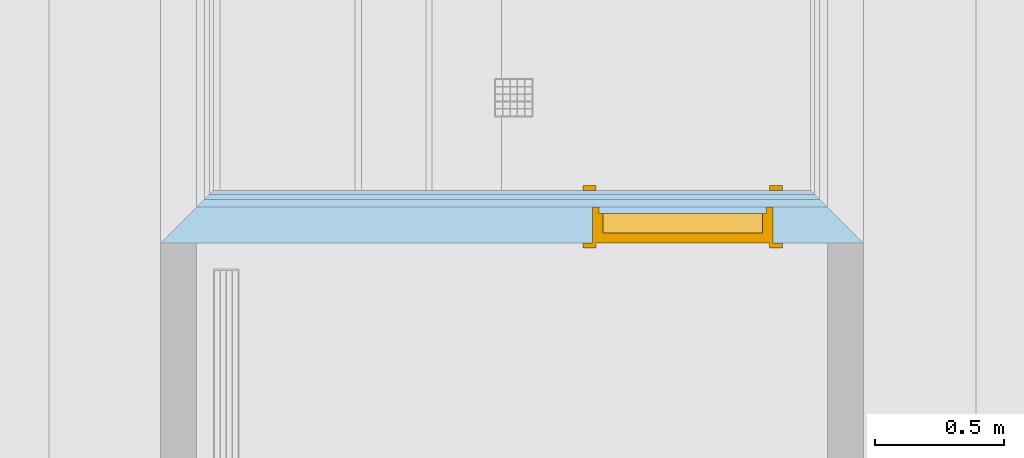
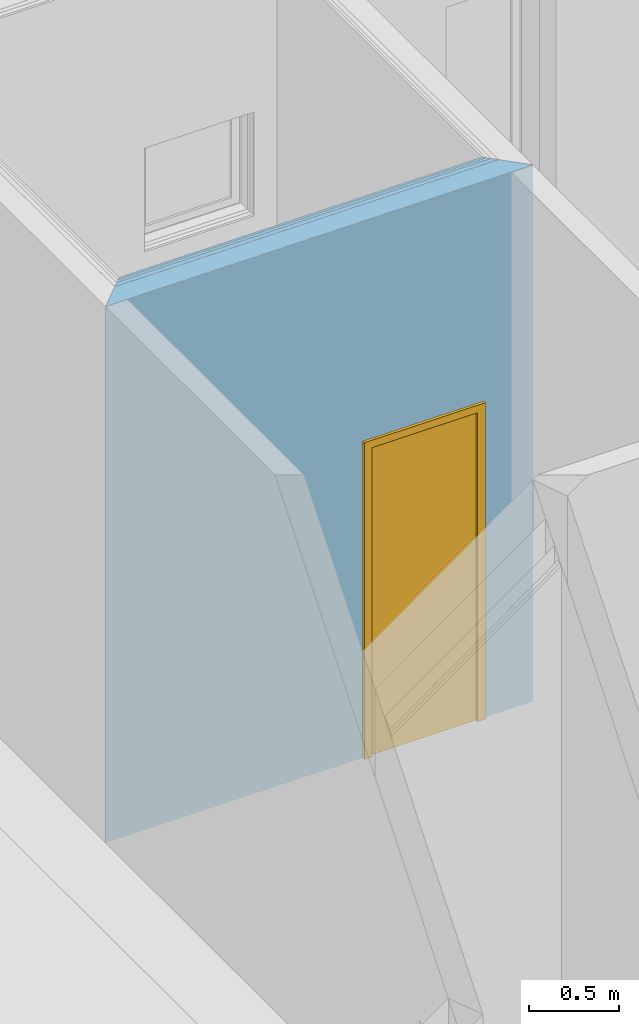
# One storey, part 65 of 100: 1 door, 1 opening, 1 element without a shape of its own, plus 4 elements that do not belong to this part.
"""IFC2X3 building model written with IfcOpenShell, lengths in millimetres."""

import ifcopenshell
import ifcopenshell.guid

model = None  # the IFC model being written
_history = None  # IfcOwnerHistory: only IFC2X3 demands one
_inside = {}  # id of a spatial element -> (the spatial element, [elements in it])
_under = {}  # id of a project, library or spatial element -> (it, [spatial elements below it])
_declared = {}  # id of a project -> (the project, [libraries it declares])
_typed = {}  # id of a type object -> (the type object, [elements of that type])
_made_of = {}  # id of a material, layer set ... -> (it, [elements and type objects made of it])


def new_model(schema):
    """Start an empty IFC model of exactly this schema.

    Asked for "IFC4X3", IfcOpenShell would pick the latest addendum, in which some entities
    have other attributes; the version numbers below select the first issue.
    IFC2X3 requires an IfcOwnerHistory on every rooted entity: one is made here for all.
    """
    global model, _history
    if schema == "IFC4X3":
        model = ifcopenshell.file(schema_version=(4, 3, 0, 0))
    else:
        model = ifcopenshell.file(schema=schema)
    _inside.clear()
    _under.clear()
    _declared.clear()
    _typed.clear()
    _made_of.clear()
    _history = None
    if model.schema == "IFC2X3":
        org = make("IfcOrganization", Name="unknown")
        user = make(
            "IfcPersonAndOrganization",
            ThePerson=make("IfcPerson", FamilyName="unknown"),
            TheOrganization=org,
        )
        app = make(
            "IfcApplication",
            ApplicationDeveloper=org,
            Version="unknown",
            ApplicationFullName="unknown",
            ApplicationIdentifier="unknown",
        )
        _history = make(
            "IfcOwnerHistory",
            OwningUser=user,
            OwningApplication=app,
            ChangeAction="ADDED",
            CreationDate=0,
        )
    return model


def make(cls, **values):
    """One entity of the class cls with the attributes given. An attribute that is None is left unset."""
    return model.create_entity(
        cls, **{name: value for name, value in values.items() if value is not None}
    )


def entity(cls, *values):
    """Any entity or typed value of the class cls, its attributes in the order of the schema. None: left unset."""
    e = model.create_entity(cls)
    for i, value in enumerate(values):
        if value is not None:
            e[i] = value
    return e


def rooted(cls, **values):
    """An entity with a GlobalId (a new one), such as an element, a storey or a relation."""
    return make(cls, GlobalId=ifcopenshell.guid.new(), OwnerHistory=_history, **values)


def si_unit(unit_type, name, prefix=None):
    """IfcSIUnit, for example si_unit("LENGTHUNIT", "METRE", prefix="MILLI")."""
    return make("IfcSIUnit", UnitType=unit_type, Prefix=prefix, Name=name)


def converted_unit(unit_type, name, factor, base, dimensions=None, offset=None):
    """IfcConversionBasedUnit, such as the inch: factor (a typed value) times the base unit."""
    return make(
        "IfcConversionBasedUnit"
        if offset is None
        else "IfcConversionBasedUnitWithOffset",
        ConversionOffset=offset,
        Dimensions=None
        if dimensions is None
        else entity("IfcDimensionalExponents", *dimensions),
        UnitType=unit_type,
        Name=name,
        ConversionFactor=make(
            "IfcMeasureWithUnit", ValueComponent=factor, UnitComponent=base
        ),
    )


def derived_unit(unit_type, elements):
    """IfcDerivedUnit: a product of units, each with its exponent."""
    return make(
        "IfcDerivedUnit",
        Elements=[
            make("IfcDerivedUnitElement", Unit=unit, Exponent=power)
            for unit, power in elements
        ],
        UnitType=unit_type,
    )


def money_unit(currency):
    """IfcMonetaryUnit."""
    return make("IfcMonetaryUnit", Currency=currency)


def assignment(units):
    """IfcUnitAssignment: the units of a project."""
    return None if units is None else make("IfcUnitAssignment", Units=units)


def point(xyz):
    """IfcCartesianPoint."""
    return None if xyz is None else make("IfcCartesianPoint", Coordinates=xyz)


def direction(xyz):
    """IfcDirection."""
    return None if xyz is None else make("IfcDirection", DirectionRatios=xyz)


def frame(location, z_axis=None, x_axis=None):
    """IfcAxis2Placement3D, a coordinate frame: its origin and axes. An axis left out is left unset."""
    return make(
        "IfcAxis2Placement3D",
        Location=point(location),
        Axis=direction(z_axis),
        RefDirection=direction(x_axis),
    )


def frame_2d(location, x_axis=None):
    """IfcAxis2Placement2D, a coordinate frame in the plane: its origin and x axis."""
    return make(
        "IfcAxis2Placement2D", Location=point(location), RefDirection=direction(x_axis)
    )


def origin_with_axes():
    """The frame at (0, 0, 0) with the z axis (0, 0, 1) and the x axis (1, 0, 0) written out."""
    return frame((0.0, 0.0, 0.0), z_axis=(0.0, 0.0, 1.0), x_axis=(1.0, 0.0, 0.0))


def origin_2d_with_axis():
    """The frame at (0, 0) in the plane with the x axis (1, 0) written out."""
    return frame_2d((0.0, 0.0), x_axis=(1.0, 0.0))


def place(relative_to, where):
    """IfcLocalPlacement: puts the frame where relative to a parent placement (None: the world)."""
    return make(
        "IfcLocalPlacement", PlacementRelTo=relative_to, RelativePlacement=where
    )


def context(
    kind, dimensions, precision=None, world=None, true_north=None, identifier=None
):
    """IfcGeometricRepresentationContext, for example the 3D "Model" context."""
    return make(
        "IfcGeometricRepresentationContext",
        ContextIdentifier=identifier,
        ContextType=kind,
        CoordinateSpaceDimension=dimensions,
        Precision=precision,
        WorldCoordinateSystem=world,
        TrueNorth=true_north,
    )


def subcontext(parent, identifier, kind, view, scale=None):
    """IfcGeometricRepresentationSubContext, for example "Body" below "Model"."""
    return make(
        "IfcGeometricRepresentationSubContext",
        ContextIdentifier=identifier,
        ContextType=kind,
        ParentContext=parent,
        TargetScale=scale,
        TargetView=view,
    )


def project(units=None, contexts=None):
    """IfcProject with its units and contexts."""
    return rooted(
        "IfcProject",
        Name="project",
        RepresentationContexts=contexts,
        UnitsInContext=assignment(units),
    )


def spatial(cls, under=None, at=None, **own):
    """A site, building, storey or space (cls), placed at a placement, below another one or the project."""
    s = rooted(cls, ObjectPlacement=at, **own)
    if under is not None:
        _under.setdefault(under.id(), (under, []))[1].append(s)
    return s


def polyline(points):
    """IfcPolyline through the points."""
    return make("IfcPolyline", Points=[point(p) for p in points])


def profile(cls, at=None, kind="AREA", **sizes):
    """A parametric profile (cls). Its sizes go by their IFC names, for example OverallWidth=200.0."""
    return make(cls, ProfileType=kind, Position=at, **sizes)


def rectangle(**sizes):
    """IfcRectangleProfileDef."""
    return profile("IfcRectangleProfileDef", **sizes)


def outline(outer, holes=None, kind="AREA"):
    """IfcArbitraryClosedProfileDef: a profile drawn as a closed curve; with holes, ...WithVoids."""
    if holes is None:
        return make("IfcArbitraryClosedProfileDef", ProfileType=kind, OuterCurve=outer)
    return make(
        "IfcArbitraryProfileDefWithVoids",
        ProfileType=kind,
        OuterCurve=outer,
        InnerCurves=holes,
    )


def extrude(swept, where, along, depth):
    """IfcExtrudedAreaSolid: the profile swept, set in the frame where, extruded along a direction by depth."""
    return make(
        "IfcExtrudedAreaSolid",
        SweptArea=swept,
        Position=where,
        ExtrudedDirection=direction(along),
        Depth=depth,
    )


def faces_of(points, faces, orient=None, outer=None):
    """IfcFace entities. A face is a list of loops; a loop is a list of indices into points, from 0.

    orient and outer hold one flag for each loop. By default every Orientation is true, the
    first loop of a face is its IfcFaceOuterBound and the others are IfcFaceBound.
    """
    made = []
    for i, loops in enumerate(faces):
        bounds = []
        for j, loop in enumerate(loops):
            is_outer = j == 0 if outer is None else outer[i][j]
            bounds.append(
                make(
                    "IfcFaceOuterBound" if is_outer else "IfcFaceBound",
                    Bound=make("IfcPolyLoop", Polygon=[points[k] for k in loop]),
                    Orientation=True if orient is None else orient[i][j],
                )
            )
        made.append(make("IfcFace", Bounds=bounds))
    return made


def faceted_brep(points, faces, orient=None, outer=None, voids=None):
    """IfcFacetedBrep: a solid bounded by flat faces; with voids (closed shells), ...WithVoids."""
    shared = [point(p) for p in points]
    hull = make("IfcClosedShell", CfsFaces=faces_of(shared, faces, orient, outer))
    if voids is None:
        return make("IfcFacetedBrep", Outer=hull)
    return make(
        "IfcFacetedBrepWithVoids",
        Outer=hull,
        Voids=[
            make(cls, CfsFaces=faces_of(shared, fs, o, b)) for cls, fs, o, b in voids
        ],
    )


def shape(context_of_items, identifier, shape_type, items):
    """IfcShapeRepresentation: the items that make up one representation, for example the "Body"."""
    return make(
        "IfcShapeRepresentation",
        ContextOfItems=context_of_items,
        RepresentationIdentifier=identifier,
        RepresentationType=shape_type,
        Items=items,
    )


def material(Name=None, Category=None):
    """IfcMaterial."""
    return make("IfcMaterial", Name=Name, Category=Category)


def made_of(thing, what):
    """Note that an element or type object is made of a material, layer set ...; save() writes the relation."""
    if what is not None:
        _made_of.setdefault(what.id(), (what, []))[1].append(thing)
    return thing


def type_object(cls, material=None, **own):
    """A type object (cls), such as IfcWallType, which elements share."""
    return made_of(rooted(cls, **own), material)


def element(
    cls,
    number,
    at=None,
    inside=None,
    cuts=None,
    type_object=None,
    material=None,
    context=None,
    identifier="Body",
    shape_type=None,
    held_by="IfcProductDefinitionShape",
    body=None,
    shapes=None,
    **own,
):
    """One element of the class cls, such as IfcWall. Its Tag is "e" and its number.

    at: its placement. inside: the storey or other place that contains it. cuts: it is an
    opening in that element (IfcRelVoidsElement). A single representation is given by context,
    identifier, shape_type and body (its items); several are given by shapes. held_by: the class
    of the entity that holds the representations. save() writes the other relations.
    """
    e = rooted(cls, Tag="e%d" % number, ObjectPlacement=at, **own)
    if body is not None:
        shapes = [shape(context, identifier, shape_type, body)]
    if shapes is not None:
        e.Representation = make(held_by, Representations=shapes)
    if inside is not None:
        _inside.setdefault(inside.id(), (inside, []))[1].append(e)
    if cuts is not None:
        rooted(
            "IfcRelVoidsElement", RelatingBuildingElement=cuts, RelatedOpeningElement=e
        )
    if type_object is not None:
        _typed.setdefault(type_object.id(), (type_object, []))[1].append(e)
    return made_of(e, material)


def fill(opening, filler):
    """IfcRelFillsElement: the door or window that sits in an opening."""
    return rooted(
        "IfcRelFillsElement",
        RelatingOpeningElement=opening,
        RelatedBuildingElement=filler,
    )


def aggregate(whole, parts):
    """IfcRelAggregates: a whole, such as a stair, and the parts it consists of."""
    return rooted("IfcRelAggregates", RelatingObject=whole, RelatedObjects=parts)


def save(model, path):
    """Write the relations noted so far, then the file.

    IfcRelAggregates (storeys below a building ...), IfcRelContainedInSpatialStructure (elements
    in a storey), IfcRelDefinesByType, IfcRelAssociatesMaterial and IfcRelDeclares: one each for
    every whole, place, type object, material and project.
    """
    for whole, parts in _under.values():
        aggregate(whole, parts)
    for where, things in _inside.values():
        rooted(
            "IfcRelContainedInSpatialStructure",
            RelatedElements=things,
            RelatingStructure=where,
        )
    for kind, things in _typed.values():
        rooted("IfcRelDefinesByType", RelatedObjects=things, RelatingType=kind)
    for what, things in _made_of.values():
        rooted("IfcRelAssociatesMaterial", RelatedObjects=things, RelatingMaterial=what)
    for by, libraries in _declared.values():
        rooted("IfcRelDeclares", RelatingContext=by, RelatedDefinitions=libraries)
    model.write(path)


model = new_model("IFC2X3")

# Units and contexts
model_context = context("Model", 3, precision=0.01, world=origin_with_axes(), true_north=direction((0.0, 1.0)))
body_context = subcontext(model_context, "Body", "Model", "MODEL_VIEW")
ifc_project = project(units=[si_unit("LENGTHUNIT", "METRE", prefix="MILLI"), si_unit("AREAUNIT", "SQUARE_METRE"), si_unit("VOLUMEUNIT", "CUBIC_METRE"), converted_unit("PLANEANGLEUNIT", "DEGREE", entity("IfcPlaneAngleMeasure", 0.0174532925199), si_unit("PLANEANGLEUNIT", "RADIAN"), dimensions=[0, 0, 0, 0, 0, 0, 0]), si_unit("SOLIDANGLEUNIT", "STERADIAN"), money_unit("EUR"), converted_unit("TIMEUNIT", "Year", entity("IfcTimeMeasure", 31556926.0), si_unit("TIMEUNIT", "SECOND"), dimensions=[0, 0, 1, 0, 0, 0, 0]), si_unit("MASSUNIT", "GRAM", prefix="KILO"), si_unit("THERMODYNAMICTEMPERATUREUNIT", "DEGREE_CELSIUS"), si_unit("LUMINOUSINTENSITYUNIT", "LUMEN"), si_unit("ENERGYUNIT", "JOULE", prefix="MEGA"), derived_unit("THERMALCONDUCTANCEUNIT", [(si_unit("POWERUNIT", "WATT"), 1), (si_unit("LENGTHUNIT", "METRE"), -1), (si_unit("THERMODYNAMICTEMPERATUREUNIT", "KELVIN"), -1)]), derived_unit("SPECIFICHEATCAPACITYUNIT", [(si_unit("ENERGYUNIT", "JOULE"), 1), (si_unit("MASSUNIT", "GRAM", prefix="KILO"), -1), (si_unit("THERMODYNAMICTEMPERATUREUNIT", "KELVIN"), -1)]), derived_unit("MASSDENSITYUNIT", [(si_unit("MASSUNIT", "GRAM", prefix="KILO"), 1), (si_unit("VOLUMEUNIT", "CUBIC_METRE"), -1)])], contexts=[model_context])

# Site, building, storey
site_placement = place(None, origin_with_axes())
site = spatial("IfcSite", under=ifc_project, at=site_placement, Name="Politse- ja Piirivalveameti ning Päästeameti ühishoone", CompositionType="ELEMENT")
building_placement = place(site_placement, origin_with_axes())
building = spatial("IfcBuilding", under=site, at=building_placement, Name="Politse- ja Piirivalveameti ning Päästeameti ühishoone", CompositionType="ELEMENT")
storey_placement = place(building_placement, frame((0.0, 0.0, 3800.0), z_axis=(0.0, 0.0, 1.0), x_axis=(1.0, 0.0, 0.0)))
storey = spatial("IfcBuildingStorey", under=building, at=storey_placement, Name="Teine korrus", CompositionType="ELEMENT", Elevation=3800.0)

# Door
door_style = type_object("IfcDoorStyle", Name="Door 23", ConstructionType="NOTDEFINED", OperationType="SINGLE_SWING_LEFT", ParameterTakesPrecedence=False, Sizeable=False)
wall_placement = place(storey_placement, frame((43043.4114692, 18430.0421528, 0.0), z_axis=(0.0, 0.0, 1.0), x_axis=(1.0, 0.0, 0.0)))
opening_placement = place(wall_placement, frame((2028.0, 0.0, 0.0), z_axis=(0.0, 0.0, 1.0), x_axis=(1.0, 0.0, 0.0)))
door_placement = place(opening_placement, frame((350.0, 0.0, 0.0), z_axis=(0.0, 0.0, 1.0), x_axis=(-1.0, 0.0, 0.0)))
door = element("IfcDoor", 1, at=door_placement, inside=storey, type_object=door_style, Name="SU-03-1", ObjectType="DOOR", OverallHeight=2100.0, OverallWidth=700.0, context=body_context, shape_type="Brep", body=[
    faceted_brep([(28.0, -40.0, 0.0), (40.0, -40.0, 0.0), (40.0, -40.0, 12.0), (28.0, -40.0, 12.0), (672.0, -40.0, 0.0), (660.0, -40.0, 0.0), (660.0, -115.0, 0.0), (40.0, -115.0, 0.0), (40.0, -115.0, 12.0), (660.0, -115.0, 12.0), (660.0, -40.0, 12.0), (672.0, -40.0, 12.0)], [[[0, 1, 2, 3]], [[0, 4, 5, 6, 7, 1]], [[1, 7, 8, 2]], [[3, 2, 8, 9, 10, 11]], [[4, 0, 3, 11]], [[5, 4, 11, 10]], [[6, 5, 10, 9]], [[7, 6, 9, 8]]]),
    faceted_brep([(700.0, -115.0, 0.0), (700.0, -205.0, 0.0), (675.0, -205.0, 0.0), (675.0, -115.0, 0.0), (700.0, -115.0, 2100.0), (700.0, -205.0, 2100.0), (675.0, -205.0, 2075.0), (675.0, -115.0, 2075.0)], [[[0, 1, 2, 3]], [[4, 5, 1, 0]], [[1, 5, 6, 2]], [[3, 2, 6, 7]], [[0, 3, 7, 4]], [[7, 6, 5, 4]]]),
    faceted_brep([(0.0, -115.0, 2100.0), (0.0, -205.0, 2100.0), (25.0, -205.0, 2075.0), (25.0, -115.0, 2075.0), (0.0, -115.0, 0.0), (0.0, -205.0, 0.0), (25.0, -205.0, 0.0), (25.0, -115.0, 0.0)], [[[0, 1, 2, 3]], [[4, 5, 1, 0]], [[1, 5, 6, 2]], [[3, 2, 6, 7]], [[0, 3, 7, 4]], [[7, 6, 5, 4]]]),
    faceted_brep([(675.0, -115.0, 2075.0), (675.0, -205.0, 2075.0), (25.0, -205.0, 2075.0), (25.0, -115.0, 2075.0), (700.0, -115.0, 2100.0), (700.0, -205.0, 2100.0), (0.0, -205.0, 2100.0), (0.0, -115.0, 2100.0)], [[[0, 1, 2, 3]], [[4, 5, 1, 0]], [[1, 5, 6, 2]], [[3, 2, 6, 7]], [[0, 3, 7, 4]], [[7, 6, 5, 4]]]),
    faceted_brep([(737.0, -224.0, 0.0), (687.0, -224.0, 0.0), (687.0, -205.0, 0.0), (737.0, -205.0, 0.0), (737.0, -224.0, 2137.0), (687.0, -224.0, 2087.0), (687.0, -205.0, 2087.0), (737.0, -205.0, 2137.0)], [[[0, 1, 2, 3]], [[0, 4, 5, 1]], [[1, 5, 6, 2]], [[3, 2, 6, 7]], [[4, 0, 3, 7]], [[5, 4, 7, 6]]]),
    faceted_brep([(-37.0, -224.0, 2137.0), (13.0, -224.0, 2087.0), (13.0, -205.0, 2087.0), (-37.0, -205.0, 2137.0), (-37.0, -224.0, 0.0), (13.0, -224.0, 0.0), (13.0, -205.0, 0.0), (-37.0, -205.0, 0.0)], [[[0, 1, 2, 3]], [[0, 4, 5, 1]], [[1, 5, 6, 2]], [[3, 2, 6, 7]], [[4, 0, 3, 7]], [[5, 4, 7, 6]]]),
    faceted_brep([(737.0, -224.0, 2137.0), (687.0, -224.0, 2087.0), (687.0, -205.0, 2087.0), (737.0, -205.0, 2137.0), (-37.0, -224.0, 2137.0), (13.0, -224.0, 2087.0), (13.0, -205.0, 2087.0), (-37.0, -205.0, 2137.0)], [[[0, 1, 2, 3]], [[0, 4, 5, 1]], [[1, 5, 6, 2]], [[3, 2, 6, 7]], [[4, 0, 3, 7]], [[5, 4, 7, 6]]]),
    faceted_brep([(737.0, 19.0, 0.0), (737.0, 0.0, 0.0), (687.0, 0.0, 0.0), (687.0, 19.0, 0.0), (737.0, 19.0, 2137.0), (737.0, 0.0, 2137.0), (687.0, 0.0, 2087.0), (687.0, 19.0, 2087.0)], [[[0, 1, 2, 3]], [[4, 5, 1, 0]], [[1, 5, 6, 2]], [[3, 2, 6, 7]], [[0, 3, 7, 4]], [[7, 6, 5, 4]]]),
    faceted_brep([(-37.0, 19.0, 2137.0), (-37.0, 0.0, 2137.0), (13.0, 0.0, 2087.0), (13.0, 19.0, 2087.0), (-37.0, 19.0, 0.0), (-37.0, 0.0, 0.0), (13.0, 0.0, 0.0), (13.0, 19.0, 0.0)], [[[0, 1, 2, 3]], [[4, 5, 1, 0]], [[1, 5, 6, 2]], [[3, 2, 6, 7]], [[0, 3, 7, 4]], [[7, 6, 5, 4]]]),
    faceted_brep([(737.0, 19.0, 2137.0), (737.0, 0.0, 2137.0), (687.0, 0.0, 2087.0), (687.0, 19.0, 2087.0), (-37.0, 19.0, 2137.0), (-37.0, 0.0, 2137.0), (13.0, 0.0, 2087.0), (13.0, 19.0, 2087.0)], [[[0, 1, 2, 3]], [[4, 5, 1, 0]], [[1, 5, 6, 2]], [[3, 2, 6, 7]], [[0, 3, 7, 4]], [[7, 6, 5, 4]]]),
    faceted_brep([(660.0, -40.0, 0.0), (660.0, -115.0, 0.0), (660.0, -115.0, 2060.0), (660.0, -40.0, 2060.0), (672.0, -40.0, 0.0), (672.0, 0.0, 0.0), (700.0, 0.0, 0.0), (700.0, -115.0, 0.0), (700.0, -115.0, 2060.0), (672.0, -40.0, 2060.0), (700.0, 0.0, 2060.0), (672.0, 0.0, 2060.0)], [[[0, 1, 2, 3]], [[4, 5, 6, 7, 1, 0]], [[1, 7, 8, 2]], [[9, 3, 2, 8, 10, 11]], [[9, 4, 0, 3]], [[11, 5, 4, 9]], [[11, 10, 6, 5]], [[6, 10, 8, 7]]]),
    faceted_brep([(28.0, -40.0, 2060.0), (28.0, 0.0, 2060.0), (0.0, 0.0, 2060.0), (0.0, -115.0, 2060.0), (40.0, -115.0, 2060.0), (40.0, -40.0, 2060.0), (28.0, -40.0, 0.0), (28.0, 0.0, 0.0), (0.0, 0.0, 0.0), (0.0, -115.0, 0.0), (40.0, -115.0, 0.0), (40.0, -40.0, 0.0)], [[[0, 1, 2, 3, 4, 5]], [[0, 6, 7, 1]], [[7, 8, 2, 1]], [[2, 8, 9, 3]], [[3, 9, 10, 4]], [[5, 4, 10, 11]], [[5, 11, 6, 0]], [[6, 11, 10, 9, 8, 7]]]),
    faceted_brep([(672.0, 0.0, 2072.0), (28.0, 0.0, 2072.0), (28.0, 0.0, 2060.0), (0.0, 0.0, 2060.0), (0.0, 0.0, 2100.0), (700.0, 0.0, 2100.0), (700.0, 0.0, 2060.0), (672.0, 0.0, 2060.0), (672.0, -40.0, 2072.0), (28.0, -40.0, 2072.0), (28.0, -40.0, 2060.0), (40.0, -40.0, 2060.0), (40.0, -115.0, 2060.0), (0.0, -115.0, 2060.0), (0.0, -115.0, 2100.0), (700.0, -115.0, 2100.0), (700.0, -115.0, 2060.0), (672.0, -40.0, 2060.0), (660.0, -115.0, 2060.0), (660.0, -40.0, 2060.0)], [[[0, 1, 2, 3, 4, 5, 6, 7]], [[0, 8, 9, 1]], [[1, 9, 10, 2]], [[10, 11, 12, 13, 3, 2]], [[4, 3, 13, 14]], [[5, 4, 14, 15]], [[6, 5, 15, 16]], [[17, 7, 6, 16, 18, 19]], [[7, 17, 8, 0]], [[10, 9, 8, 17, 19, 11]], [[19, 18, 12, 11]], [[12, 18, 16, 15, 14, 13]]]),
    faceted_brep([(28.0, 0.0, 0.0), (672.0, 0.0, 0.0), (672.0, -40.0, 0.0), (28.0, -40.0, 0.0), (28.0, 0.0, 2072.0), (672.0, 0.0, 2072.0), (672.0, -40.0, 2072.0), (28.0, -40.0, 2072.0)], [[[0, 1, 2, 3]], [[0, 4, 5, 1]], [[1, 5, 6, 2]], [[3, 2, 6, 7]], [[4, 0, 3, 7]], [[5, 4, 7, 6]]]),
])

# Wall, opening
wall_type = type_object("IfcWallType", Name="SS-07_Sisesein - leiliruum 205", PredefinedType="NOTDEFINED")
wall = element("IfcWall", 2, at=wall_placement, inside=storey, type_object=wall_type, Name="SS-07")
opening = element("IfcOpeningElement", 3, at=opening_placement, cuts=wall, Name="SU-03-1", context=body_context, shape_type="SweptSolid", body=[
    extrude(rectangle(XDim=700.0, YDim=2100.0, at=origin_2d_with_axis()), frame((0.0, 205.0, 1050.0), z_axis=(0.0, 1.0, 0.0), x_axis=(1.0, 0.0, 0.0)), (0.0, 0.0, -1.0), 615.0),
    extrude(rectangle(XDim=774.0, YDim=2137.0, at=origin_2d_with_axis()), frame((0.0, 205.0, 1068.5), z_axis=(0.0, 1.0, 0.0), x_axis=(1.0, 0.0, 0.0)), (0.0, 0.0, 1.0), 205.0),
    extrude(rectangle(XDim=774.0, YDim=2137.0, at=origin_2d_with_axis()), frame((0.0, 0.0, 1068.5), z_axis=(0.0, -1.0, 0.0), x_axis=(1.0, 0.0, 0.0)), (0.0, 0.0, 1.0), 205.0),
])

fill(opening, door)

# Building element part
ifc_material_1 = material(Name="ET-01_Puit - Konstruktsioon")
building_element_part_1_placement = place(wall_placement, origin_with_axes())
building_element_part_1 = element("IfcBuildingElementPart", 4, at=building_element_part_1_placement, material=ifc_material_1, Name="ET-01_Puit - Konstruktsioon", context=body_context, shape_type="SweptSolid", body=[
    extrude(outline(polyline([(190.0, 190.0), (2540.0, 190.0), (2525.0, 205.0), (205.0, 205.0), (190.0, 190.0)])), origin_with_axes(), (0.0, 0.0, 1.0), 3620.0),
])

ifc_material_2 = material(Name="Õhkvahe - Raam")
building_element_part_2_placement = place(wall_placement, origin_with_axes())
building_element_part_2 = element("IfcBuildingElementPart", 5, at=building_element_part_2_placement, material=ifc_material_2, Name="Õhkvahe - Raam", context=body_context, shape_type="SweptSolid", body=[
    extrude(outline(polyline([(170.0, 170.0), (2560.0, 170.0), (2540.0, 190.0), (190.0, 190.0), (170.0, 170.0)])), origin_with_axes(), (0.0, 0.0, 1.0), 3620.0),
])

ifc_material_3 = material(Name="SOJ-02_Soojustus - Fiiber Kõva")
building_element_part_3_placement = place(wall_placement, origin_with_axes())
building_element_part_3 = element("IfcBuildingElementPart", 6, at=building_element_part_3_placement, material=ifc_material_3, Name="SOJ-02_Soojustus - Fiiber Kõva", context=body_context, shape_type="SweptSolid", body=[
    extrude(outline(polyline([(140.0, 140.0), (2590.0, 140.0), (2560.0, 170.0), (170.0, 170.0), (140.0, 140.0)])), origin_with_axes(), (0.0, 0.0, 1.0), 3620.0),
])

ifc_material_4 = material(Name="KON-05_Betoon Plokk - Konstuktsioon")
building_element_part_4_placement = place(wall_placement, origin_with_axes())
building_element_part_4 = element("IfcBuildingElementPart", 7, at=building_element_part_4_placement, material=ifc_material_4, Name="KON-05_Betoon Plokk - Konstuktsioon", context=body_context, shape_type="SweptSolid", body=[
    extrude(outline(polyline([(0.0, 0.0), (2730.0, 0.0), (2590.0, 140.0), (140.0, 140.0), (0.0, 0.0)])), origin_with_axes(), (0.0, 0.0, 1.0), 3620.0),
])

aggregate(wall, [building_element_part_1, building_element_part_2, building_element_part_3, building_element_part_4])

save(model, "model.ifc")
